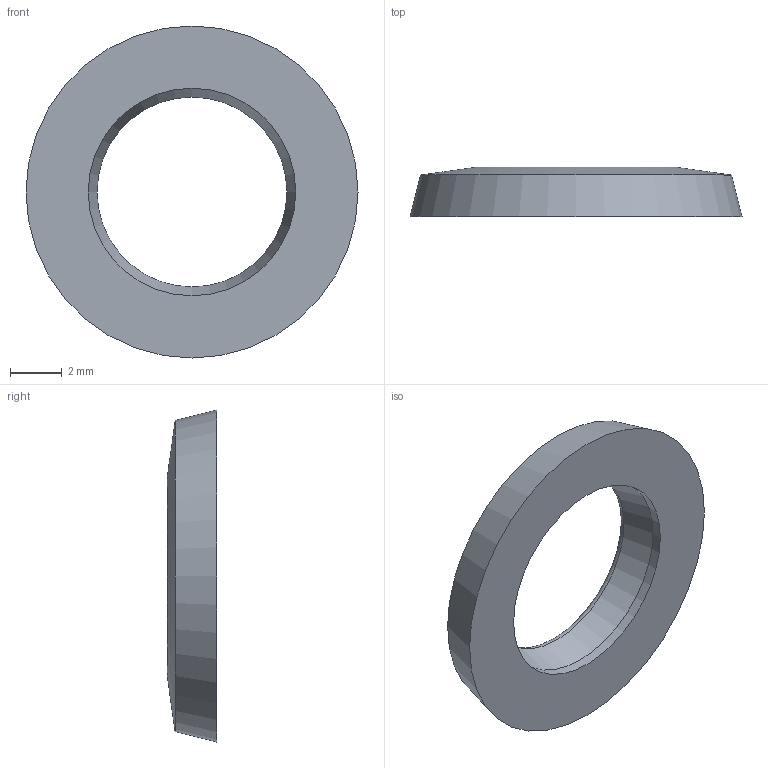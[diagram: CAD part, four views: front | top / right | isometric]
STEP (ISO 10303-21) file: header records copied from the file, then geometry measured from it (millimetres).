
FILE_DESCRIPTION( ( 'STEP AP203' ), '1' );
FILE_NAME( 'C:/Temp/Ganter_Step_05_03_2020/data/3_5/gn7600/Sealing ring GN 7600-12-8-2-EPDM-85.stp', '2020-03-12T13:43:53', ( 'License CC BY-ND 4.0' ), ( 'CADENAS' ), ' ', 'PARTsolutions', ' ' );
FILE_SCHEMA( ( 'CONFIG_CONTROL_DESIGN' ) );
Length unit declared in the file: millimetre
Products named in the file (1): _Sealing ring GN 7600-12-8-2-EPDM-85
Bounding box: 12.8 x 1.9 x 12.8 mm (x, y, z)
Volume: 128.1 mm3; surface area: 259.4 mm2
Topology: 1 solids, 1 shells, 6 faces, 11 edges, 6 vertices
Faces by surface type: cone 3, torus 1, cylinder 1, plane 1
Full cylindrical faces by diameter (mm): 8 x1
Entity records: 172 total; most frequent: DIRECTION 26, CARTESIAN_POINT 19, AXIS2_PLACEMENT_3D 13, EDGE_LOOP 12, ORIENTED_EDGE 12, FACE_OUTER_BOUND 8, ADVANCED_FACE 6, EDGE_CURVE 6
